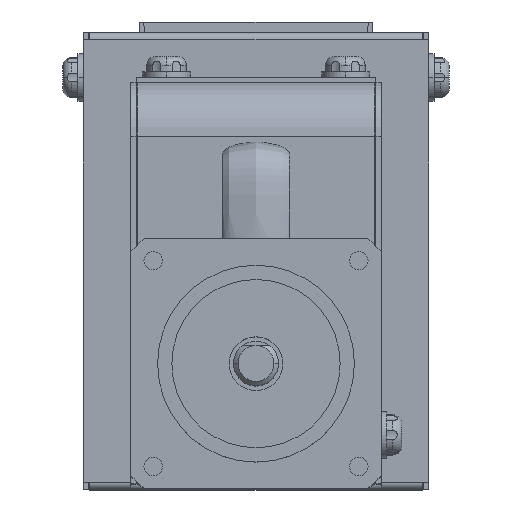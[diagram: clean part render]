
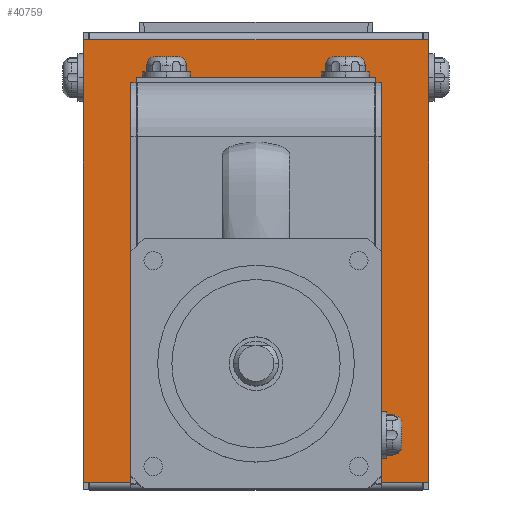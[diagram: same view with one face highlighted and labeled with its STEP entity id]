
A CAD part, top view. The second image highlights one B-rep face of the part: STEP entity #40759.
In plain terms, the highlighted planar face has unit normal (0, 0, 1).
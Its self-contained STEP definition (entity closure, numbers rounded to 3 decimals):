
#2716 = EDGE_CURVE ( 'NONE', #28624, #28575, #11586, .T. ) ;
#2724 = EDGE_CURVE ( 'NONE', #28979, #28939, #11612, .T. ) ;
#2726 = EDGE_CURVE ( 'NONE', #28549, #28939, #11618, .T. ) ;
#2727 = EDGE_CURVE ( 'NONE', #28989, #28549, #11624, .T. ) ;
#2728 = EDGE_CURVE ( 'NONE', #28989, #28575, #11627, .T. ) ;
#2729 = EDGE_CURVE ( 'NONE', #28997, #28624, #11631, .T. ) ;
#2730 = EDGE_CURVE ( 'NONE', #28426, #28997, #11634, .T. ) ;
#2731 = EDGE_CURVE ( 'NONE', #28426, #28979, #11638, .T. ) ;
#11586 = LINE ( 'NONE', #22942, #11590 ) ;
#11590 = VECTOR ( 'NONE', #22944, 1000. ) ;
#11612 = LINE ( 'NONE', #22982, #11616 ) ;
#11616 = VECTOR ( 'NONE', #22983, 1000. ) ;
#11618 = LINE ( 'NONE', #22992, #11622 ) ;
#11622 = VECTOR ( 'NONE', #22994, 1000. ) ;
#11624 = LINE ( 'NONE', #22997, #11625 ) ;
#11625 = VECTOR ( 'NONE', #22999, 1000. ) ;
#11627 = LINE ( 'NONE', #23002, #11629 ) ;
#11629 = VECTOR ( 'NONE', #23004, 1000. ) ;
#11631 = LINE ( 'NONE', #23007, #11632 ) ;
#11632 = VECTOR ( 'NONE', #23008, 1000. ) ;
#11634 = LINE ( 'NONE', #23010, #11636 ) ;
#11636 = VECTOR ( 'NONE', #23012, 1000. ) ;
#11638 = LINE ( 'NONE', #23015, #11639 ) ;
#11639 = VECTOR ( 'NONE', #23017, 1000. ) ;
#22942 = CARTESIAN_POINT ( 'NONE',  ( 18.6, -13.2, -52. ) ) ;
#22944 = DIRECTION ( 'NONE',  ( -1., 0., 0. ) ) ;
#22982 = CARTESIAN_POINT ( 'NONE',  ( 18.6, 36.3, -52. ) ) ;
#22983 = DIRECTION ( 'NONE',  ( -1., 0., 0. ) ) ;
#22992 = CARTESIAN_POINT ( 'NONE',  ( -18.7, 36.3, -52. ) ) ;
#22994 = DIRECTION ( 'NONE',  ( 1., 0., 0. ) ) ;
#22997 = CARTESIAN_POINT ( 'NONE',  ( -19.3, -13.2, -52. ) ) ;
#22999 = DIRECTION ( 'NONE',  ( 0., 1., 0. ) ) ;
#23002 = CARTESIAN_POINT ( 'NONE',  ( -18.7, -13.2, -52. ) ) ;
#23004 = DIRECTION ( 'NONE',  ( 1., 0., 0. ) ) ;
#23007 = CARTESIAN_POINT ( 'NONE',  ( 18.7, -13.2, -52. ) ) ;
#23008 = DIRECTION ( 'NONE',  ( -1., 0., 0. ) ) ;
#23010 = CARTESIAN_POINT ( 'NONE',  ( 19.3, 36.3, -52. ) ) ;
#23012 = DIRECTION ( 'NONE',  ( 0., -1., 0. ) ) ;
#23015 = CARTESIAN_POINT ( 'NONE',  ( 18.7, 36.3, -52. ) ) ;
#23017 = DIRECTION ( 'NONE',  ( -1., 0., 0. ) ) ;
#27994 = ORIENTED_EDGE ( 'NONE', *, *, #2724, .T. ) ;
#27995 = ORIENTED_EDGE ( 'NONE', *, *, #2726, .F. ) ;
#27996 = ORIENTED_EDGE ( 'NONE', *, *, #2727, .F. ) ;
#27997 = ORIENTED_EDGE ( 'NONE', *, *, #2728, .T. ) ;
#27998 = ORIENTED_EDGE ( 'NONE', *, *, #2716, .F. ) ;
#27999 = ORIENTED_EDGE ( 'NONE', *, *, #2729, .F. ) ;
#28000 = ORIENTED_EDGE ( 'NONE', *, *, #2730, .F. ) ;
#28001 = ORIENTED_EDGE ( 'NONE', *, *, #2731, .T. ) ;
#28426 = VERTEX_POINT ( 'NONE', #29034 ) ;
#28549 = VERTEX_POINT ( 'NONE', #29114 ) ;
#28575 = VERTEX_POINT ( 'NONE', #29126 ) ;
#28624 = VERTEX_POINT ( 'NONE', #29149 ) ;
#28939 = VERTEX_POINT ( 'NONE', #29301 ) ;
#28979 = VERTEX_POINT ( 'NONE', #29321 ) ;
#28989 = VERTEX_POINT ( 'NONE', #29326 ) ;
#28997 = VERTEX_POINT ( 'NONE', #29330 ) ;
#29034 = CARTESIAN_POINT ( 'NONE',  ( 19.3, 36.3, -52. ) ) ;
#29114 = CARTESIAN_POINT ( 'NONE',  ( -19.3, 36.3, -52. ) ) ;
#29126 = CARTESIAN_POINT ( 'NONE',  ( -18.6, -13.2, -52. ) ) ;
#29149 = CARTESIAN_POINT ( 'NONE',  ( 18.6, -13.2, -52. ) ) ;
#29301 = CARTESIAN_POINT ( 'NONE',  ( -18.6, 36.3, -52. ) ) ;
#29321 = CARTESIAN_POINT ( 'NONE',  ( 18.6, 36.3, -52. ) ) ;
#29326 = CARTESIAN_POINT ( 'NONE',  ( -19.3, -13.2, -52. ) ) ;
#29330 = CARTESIAN_POINT ( 'NONE',  ( 19.3, -13.2, -52. ) ) ;
#29938 = PLANE ( 'NONE',  #35882 ) ;
#29939 = CARTESIAN_POINT ( 'NONE',  ( 18.6, 36.3, -52. ) ) ;
#29940 = DIRECTION ( 'NONE',  ( 0., 0., -1. ) ) ;
#29941 = DIRECTION ( 'NONE',  ( 0., 1., 0. ) ) ;
#30198 = FACE_OUTER_BOUND ( 'NONE', #38167, .T. ) ;
#35882 = AXIS2_PLACEMENT_3D ( 'NONE', #29939, #29940, #29941 ) ;
#38167 = EDGE_LOOP ( 'NONE', ( #27994, #27995, #27996, #27997, #27998, #27999, #28000, #28001 ) ) ;
#40759 = ADVANCED_FACE ( 'NONE', ( #30198 ), #29938, .F. ) ;
